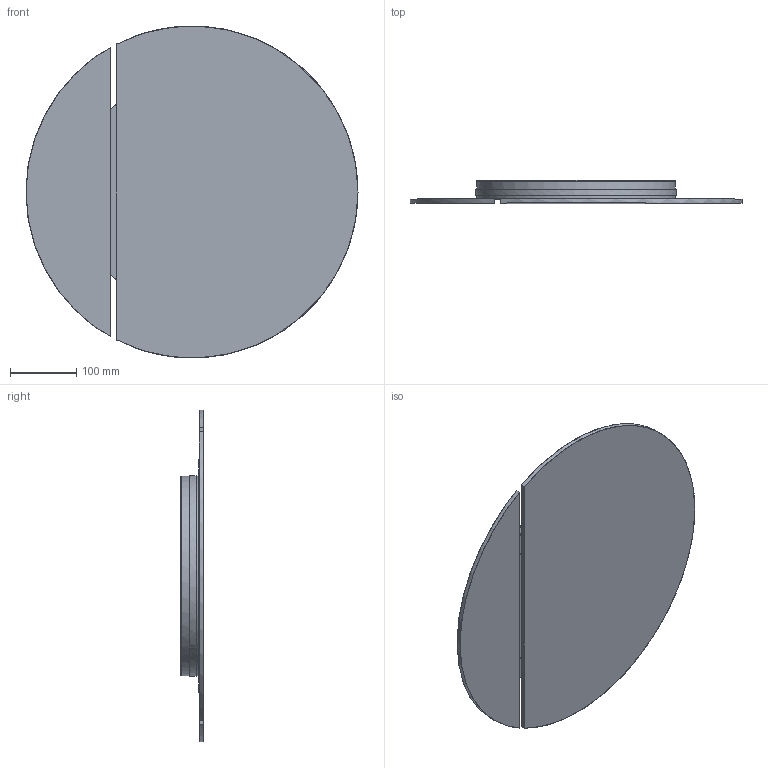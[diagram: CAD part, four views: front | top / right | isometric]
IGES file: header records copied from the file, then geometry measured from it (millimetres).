
Start section: SolidWorks IGES file using NURBS representation for surfaces
Global section: file name: Z:\Modele 3D_WWW\_KOLEKCJE_WWW\SUN-7651\SUN-7651.IGS; native system: SolidWorks 2021; preprocessor: SolidWorks 2021; author: gabriela.tworek; date: 211118.142641; units: millimetre
Bounding box: 499.98 x 34.1 x 499.91 mm (x, y, z)
Surface area: 802173.7 mm2 (no closed solid volume)
Topology: 0 solids, 0 shells, 24 faces, 97 edges, 92 vertices
Faces by surface type: bspline 24
